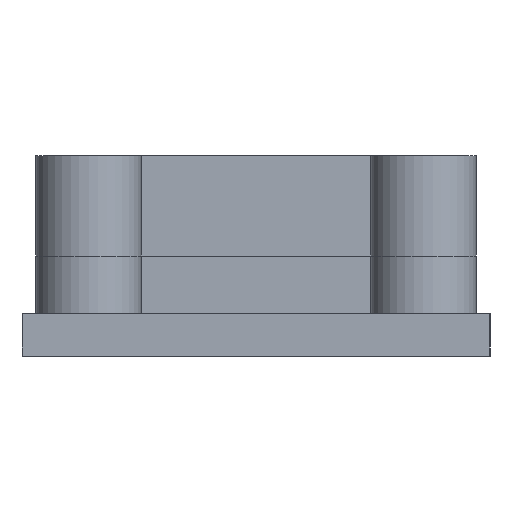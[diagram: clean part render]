
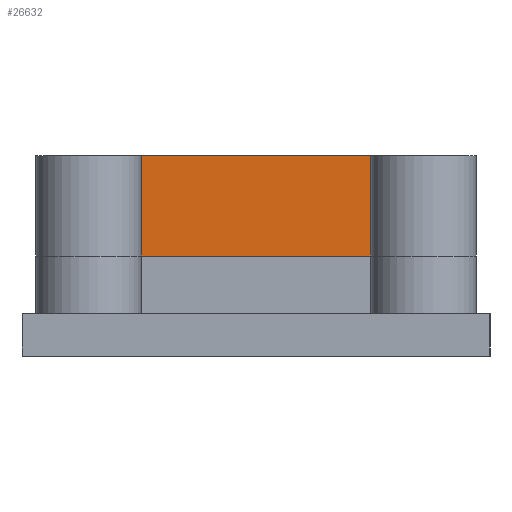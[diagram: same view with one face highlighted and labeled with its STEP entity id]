
A CAD part, left-side view. The second image highlights one B-rep face of the part: STEP entity #26632.
In plain terms, the highlighted planar face has unit normal (-1, 0, 0).
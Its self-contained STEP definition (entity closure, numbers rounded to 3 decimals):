
#15712 = PLANE('',#15713);
#15713 = AXIS2_PLACEMENT_3D('',#15714,#15715,#15716);
#15714 = CARTESIAN_POINT('',(0.,41.8,9.5));
#15715 = DIRECTION('',(0.,0.,-1.));
#15716 = DIRECTION('',(1.,0.,0.));
#15907 = VERTEX_POINT('',#15908);
#15908 = CARTESIAN_POINT('',(0.,10.,9.5));
#15922 = PLANE('',#15923);
#15923 = AXIS2_PLACEMENT_3D('',#15924,#15925,#15926);
#15924 = CARTESIAN_POINT('',(-4.5,10.,19.));
#15925 = DIRECTION('',(0.,-1.,0.));
#15926 = DIRECTION('',(0.,0.,-1.));
#15934 = EDGE_CURVE('',#15935,#15907,#15937,.T.);
#15935 = VERTEX_POINT('',#15936);
#15936 = CARTESIAN_POINT('',(0.,31.8,9.5));
#15937 = SURFACE_CURVE('',#15938,(#15942,#15949),.PCURVE_S1.);
#15938 = LINE('',#15939,#15940);
#15939 = CARTESIAN_POINT('',(0.,41.8,9.5));
#15940 = VECTOR('',#15941,1.);
#15941 = DIRECTION('',(0.,-1.,0.));
#15942 = PCURVE('',#15712,#15943);
#15943 = DEFINITIONAL_REPRESENTATION('',(#15944),#15948);
#15944 = LINE('',#15945,#15946);
#15945 = CARTESIAN_POINT('',(0.,0.));
#15946 = VECTOR('',#15947,1.);
#15947 = DIRECTION('',(0.,1.));
#15948 = ( GEOMETRIC_REPRESENTATION_CONTEXT(2) 
PARAMETRIC_REPRESENTATION_CONTEXT() REPRESENTATION_CONTEXT('2D SPACE',''
  ) );
#15949 = PCURVE('',#15950,#15955);
#15950 = PLANE('',#15951);
#15951 = AXIS2_PLACEMENT_3D('',#15952,#15953,#15954);
#15952 = CARTESIAN_POINT('',(0.,41.8,19.));
#15953 = DIRECTION('',(1.,0.,0.));
#15954 = DIRECTION('',(0.,0.,-1.));
#15955 = DEFINITIONAL_REPRESENTATION('',(#15956),#15960);
#15956 = LINE('',#15957,#15958);
#15957 = CARTESIAN_POINT('',(9.5,0.));
#15958 = VECTOR('',#15959,1.);
#15959 = DIRECTION('',(0.,-1.));
#15960 = ( GEOMETRIC_REPRESENTATION_CONTEXT(2) 
PARAMETRIC_REPRESENTATION_CONTEXT() REPRESENTATION_CONTEXT('2D SPACE',''
  ) );
#15978 = PLANE('',#15979);
#15979 = AXIS2_PLACEMENT_3D('',#15980,#15981,#15982);
#15980 = CARTESIAN_POINT('',(-4.5,31.8,19.));
#15981 = DIRECTION('',(0.,-1.,0.));
#15982 = DIRECTION('',(0.,0.,-1.));
#18509 = PLANE('',#18510);
#18510 = AXIS2_PLACEMENT_3D('',#18511,#18512,#18513);
#18511 = CARTESIAN_POINT('',(0.,41.8,19.));
#18512 = DIRECTION('',(0.,0.,-1.));
#18513 = DIRECTION('',(1.,0.,0.));
#18699 = VERTEX_POINT('',#18700);
#18700 = CARTESIAN_POINT('',(0.,10.,19.));
#18721 = EDGE_CURVE('',#18722,#18699,#18724,.T.);
#18722 = VERTEX_POINT('',#18723);
#18723 = CARTESIAN_POINT('',(0.,31.8,19.));
#18724 = SURFACE_CURVE('',#18725,(#18729,#18736),.PCURVE_S1.);
#18725 = LINE('',#18726,#18727);
#18726 = CARTESIAN_POINT('',(0.,41.8,19.));
#18727 = VECTOR('',#18728,1.);
#18728 = DIRECTION('',(0.,-1.,0.));
#18729 = PCURVE('',#18509,#18730);
#18730 = DEFINITIONAL_REPRESENTATION('',(#18731),#18735);
#18731 = LINE('',#18732,#18733);
#18732 = CARTESIAN_POINT('',(0.,0.));
#18733 = VECTOR('',#18734,1.);
#18734 = DIRECTION('',(0.,1.));
#18735 = ( GEOMETRIC_REPRESENTATION_CONTEXT(2) 
PARAMETRIC_REPRESENTATION_CONTEXT() REPRESENTATION_CONTEXT('2D SPACE',''
  ) );
#18736 = PCURVE('',#15950,#18737);
#18737 = DEFINITIONAL_REPRESENTATION('',(#18738),#18742);
#18738 = LINE('',#18739,#18740);
#18739 = CARTESIAN_POINT('',(0.,0.));
#18740 = VECTOR('',#18741,1.);
#18741 = DIRECTION('',(0.,-1.));
#18742 = ( GEOMETRIC_REPRESENTATION_CONTEXT(2) 
PARAMETRIC_REPRESENTATION_CONTEXT() REPRESENTATION_CONTEXT('2D SPACE',''
  ) );
#26612 = EDGE_CURVE('',#18722,#15935,#26613,.T.);
#26613 = SURFACE_CURVE('',#26614,(#26618,#26625),.PCURVE_S1.);
#26614 = LINE('',#26615,#26616);
#26615 = CARTESIAN_POINT('',(0.,31.8,19.));
#26616 = VECTOR('',#26617,1.);
#26617 = DIRECTION('',(0.,0.,-1.));
#26618 = PCURVE('',#15978,#26619);
#26619 = DEFINITIONAL_REPRESENTATION('',(#26620),#26624);
#26620 = LINE('',#26621,#26622);
#26621 = CARTESIAN_POINT('',(0.,4.5));
#26622 = VECTOR('',#26623,1.);
#26623 = DIRECTION('',(1.,0.));
#26624 = ( GEOMETRIC_REPRESENTATION_CONTEXT(2) 
PARAMETRIC_REPRESENTATION_CONTEXT() REPRESENTATION_CONTEXT('2D SPACE',''
  ) );
#26625 = PCURVE('',#15950,#26626);
#26626 = DEFINITIONAL_REPRESENTATION('',(#26627),#26631);
#26627 = LINE('',#26628,#26629);
#26628 = CARTESIAN_POINT('',(0.,-10.));
#26629 = VECTOR('',#26630,1.);
#26630 = DIRECTION('',(1.,0.));
#26631 = ( GEOMETRIC_REPRESENTATION_CONTEXT(2) 
PARAMETRIC_REPRESENTATION_CONTEXT() REPRESENTATION_CONTEXT('2D SPACE',''
  ) );
#26632 = ADVANCED_FACE('',(#26633),#15950,.F.);
#26633 = FACE_BOUND('',#26634,.F.);
#26634 = EDGE_LOOP('',(#26635,#26636,#26637,#26638));
#26635 = ORIENTED_EDGE('',*,*,#15934,.F.);
#26636 = ORIENTED_EDGE('',*,*,#26612,.F.);
#26637 = ORIENTED_EDGE('',*,*,#18721,.T.);
#26638 = ORIENTED_EDGE('',*,*,#26639,.T.);
#26639 = EDGE_CURVE('',#18699,#15907,#26640,.T.);
#26640 = SURFACE_CURVE('',#26641,(#26645,#26652),.PCURVE_S1.);
#26641 = LINE('',#26642,#26643);
#26642 = CARTESIAN_POINT('',(0.,10.,19.));
#26643 = VECTOR('',#26644,1.);
#26644 = DIRECTION('',(0.,0.,-1.));
#26645 = PCURVE('',#15950,#26646);
#26646 = DEFINITIONAL_REPRESENTATION('',(#26647),#26651);
#26647 = LINE('',#26648,#26649);
#26648 = CARTESIAN_POINT('',(0.,-31.8));
#26649 = VECTOR('',#26650,1.);
#26650 = DIRECTION('',(1.,0.));
#26651 = ( GEOMETRIC_REPRESENTATION_CONTEXT(2) 
PARAMETRIC_REPRESENTATION_CONTEXT() REPRESENTATION_CONTEXT('2D SPACE',''
  ) );
#26652 = PCURVE('',#15922,#26653);
#26653 = DEFINITIONAL_REPRESENTATION('',(#26654),#26658);
#26654 = LINE('',#26655,#26656);
#26655 = CARTESIAN_POINT('',(0.,4.5));
#26656 = VECTOR('',#26657,1.);
#26657 = DIRECTION('',(1.,0.));
#26658 = ( GEOMETRIC_REPRESENTATION_CONTEXT(2) 
PARAMETRIC_REPRESENTATION_CONTEXT() REPRESENTATION_CONTEXT('2D SPACE',''
  ) );
